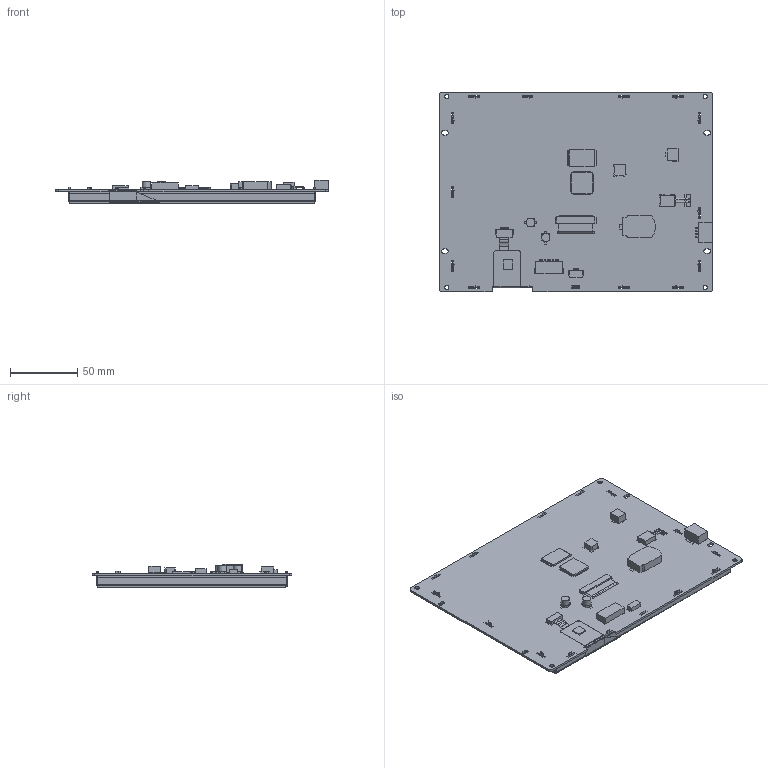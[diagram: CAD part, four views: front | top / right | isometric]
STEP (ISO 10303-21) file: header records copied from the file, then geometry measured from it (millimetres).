
FILE_DESCRIPTION(/* description */ (''),/* implementation_level */ '2;1');
FILE_NAME(/* name */ '3D_SDWe080Tx7C.stp',/* time_stamp */ '2020-09-28T10:44:55+08:00',/* author */ (''),/* organization */ (''),/* preprocessor_version */ 'ST-DEVELOPER v15',/* originating_system */ 'SIEMENS PLM Software NX 8.5',/* authorisation */ '');
FILE_SCHEMA (('AP203_CONFIGURATION_CONTROLLED_3D_DESIGN_OF_MECHANICAL_PARTS_AND_ASSEMBLIES_MIM_LF { 1 0 10303 403 2 1 2}'));
Length unit declared in the file: millimetre
Products named in the file (1): SDWe080Tx7
Bounding box: 203 x 148.8 x 17.41 mm (x, y, z)
Volume: 249317.9 mm3; surface area: 215782.7 mm2
Topology: 348 solids, 348 shells, 2313 faces, 4849 edges, 3232 vertices
Faces by surface type: plane 2194, cylinder 105, extrusion 10, torus 4
Full cylindrical faces by diameter (mm): 1 x6, 3.2 x4, 6.193 x2
Entity records: 64914 total; most frequent: CARTESIAN_POINT 10943, ORIENTED_EDGE 9642, DIRECTION 9565, EDGE_CURVE 4821, VECTOR 4537, LINE 4527, VERTEX_POINT 3226, AXIS2_PLACEMENT_3D 2514
